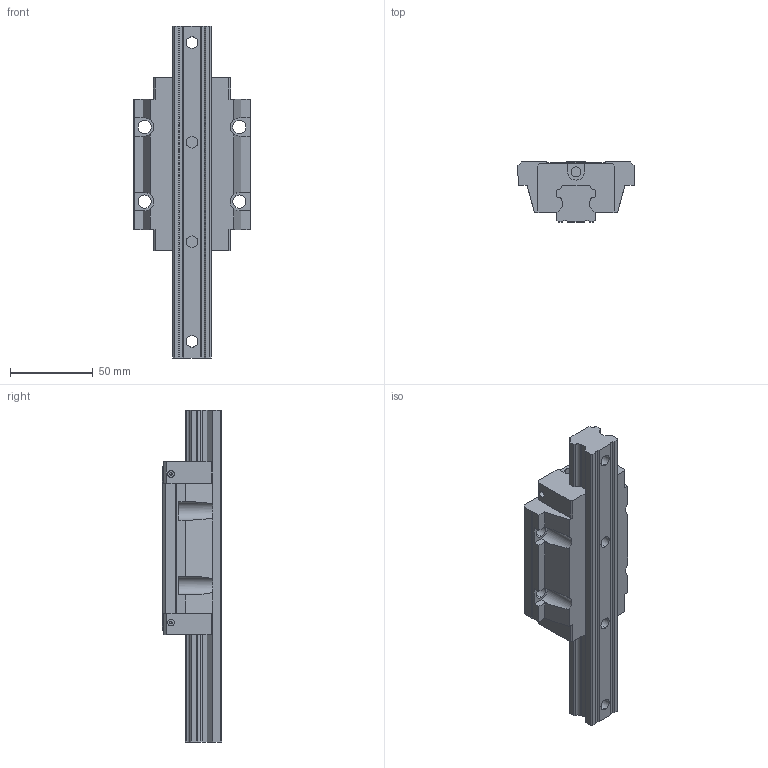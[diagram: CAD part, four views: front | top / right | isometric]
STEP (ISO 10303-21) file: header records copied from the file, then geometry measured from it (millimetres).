
FILE_DESCRIPTION((''),'2;1');
FILE_NAME('QHW25HC_ASM','2008-07-11T',('tzuyu'),(''),'PRO/ENGINEER BY PARAMETRIC TECHNOLOGY CORPORATION, 2004360','PRO/ENGINEER BY PARAMETRIC TECHNOLOGY CORPORATION, 2004360','');
FILE_SCHEMA(('CONFIG_CONTROL_DESIGN'));
Length unit declared in the file: millimetre
Products named in the file (6): QHW25HC_2; QH_BLOCK_SS_ANY_ASM_ASM_2_ASM; PRT0004; QHW25H_ANY_ASM_ASM_2_ASM; QHW25H_ASM_2_ASM; QHW25HC_ASM
Assembly tree (5 placements, depth 5):
  QHW25HC_ASM
    QHW25H_ASM_2_ASM
      QHW25H_ANY_ASM_ASM_2_ASM
        QH_BLOCK_SS_ANY_ASM_ASM_2_ASM
          QHW25HC_2
        PRT0004
Bounding box: 70 x 36 x 200 mm (x, y, z)
Volume: 223372.4 mm3; surface area: 49231.9 mm2
Topology: 2 solids, 2 shells, 202 faces, 540 edges, 360 vertices
Faces by surface type: plane 136, cylinder 66
Entity records: 6523 total; most frequent: CARTESIAN_POINT 1144, DIRECTION 1098, ORIENTED_EDGE 1080, EDGE_CURVE 540, VECTOR 400, LINE 400, VERTEX_POINT 360, AXIS2_PLACEMENT_3D 349
